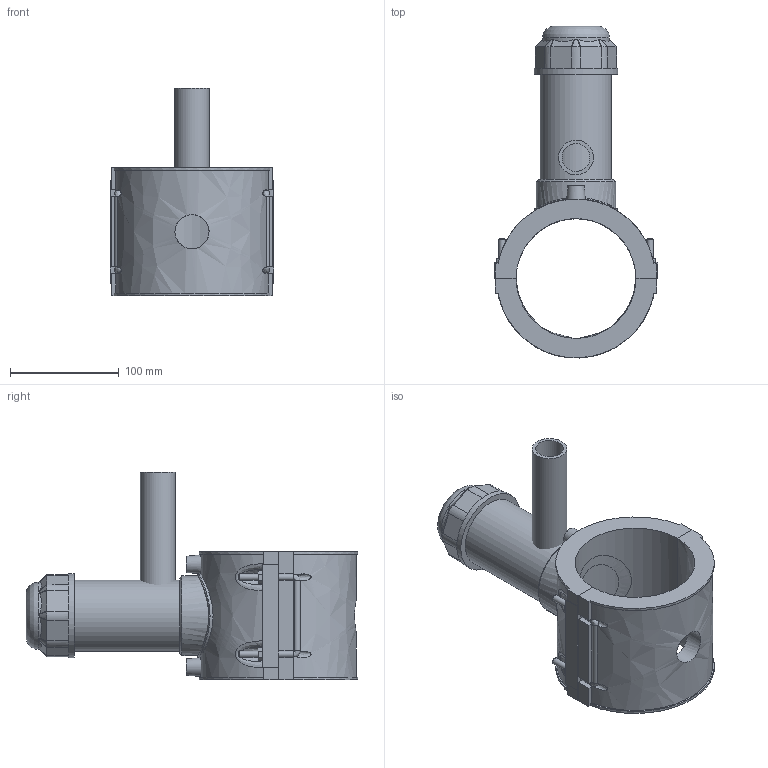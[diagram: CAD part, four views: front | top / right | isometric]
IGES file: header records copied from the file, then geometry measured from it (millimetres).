
Global section: file name: 4963P4110032; native system: Autodesk Inventor 2019; preprocessor: unknown; author: KIM; date: 20220317.112743; units: millimetre
Bounding box: 150 x 304.86 x 191 mm (x, y, z)
Volume: 1184319.6 mm3; surface area: 223852.2 mm2
Topology: 3 solids, 3 shells, 218 faces, 559 edges, 364 vertices
Faces by surface type: bspline 218
